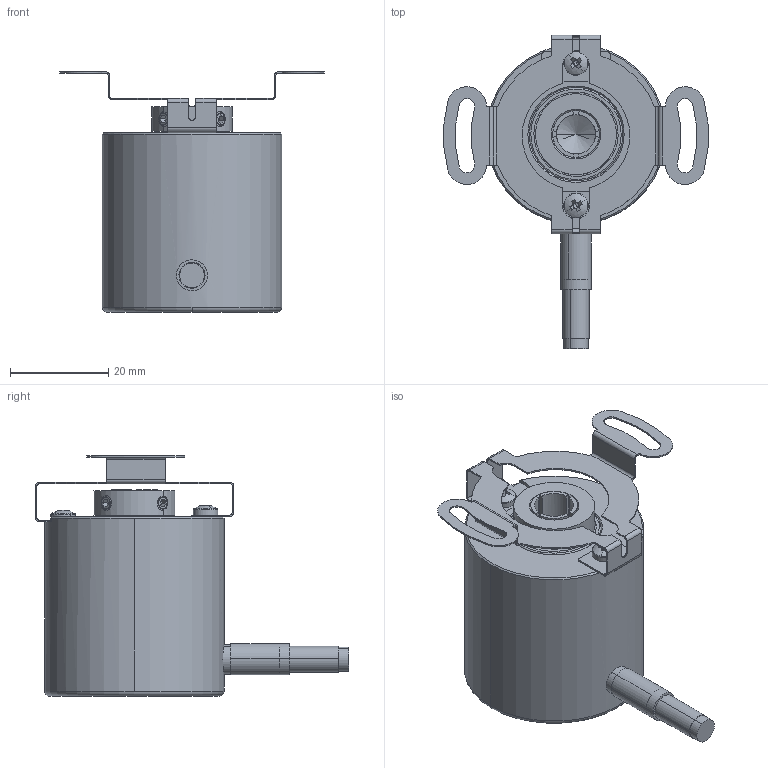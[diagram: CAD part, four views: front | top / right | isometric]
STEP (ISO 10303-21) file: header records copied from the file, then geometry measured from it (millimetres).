
FILE_DESCRIPTION (( 'STEP AP203' ), '1' );
FILE_NAME ('E36HM-SSI-112##.STEP', '2021-08-06T11:22:52', ( '' ), ( '' ), 'SwSTEP 2.0', 'SolidWorks 2021', '' );
FILE_SCHEMA (( 'CONFIG_CONTROL_DESIGN' ));
Length unit declared in the file: millimetre
Products named in the file (1): E36HM-SSI-112##
Bounding box: 53.79 x 63.74 x 48.9 mm (x, y, z)
Volume: 39484 mm3; surface area: 11573.3 mm2
Topology: 9 solids, 14 shells, 394 faces, 938 edges, 572 vertices
Faces by surface type: plane 195, cylinder 130, cone 50, torus 11, bspline 4, sphere 4
Entity records: 12064 total; most frequent: CARTESIAN_POINT 2810, DIRECTION 1993, ORIENTED_EDGE 1864, EDGE_CURVE 932, AXIS2_PLACEMENT_3D 755, VERTEX_POINT 572, VECTOR 483, LINE 483
